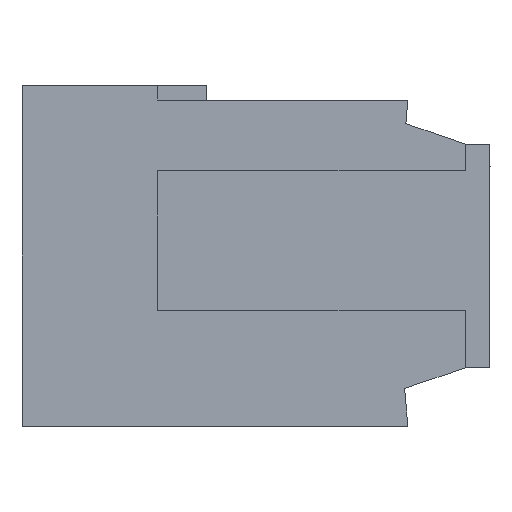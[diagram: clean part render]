
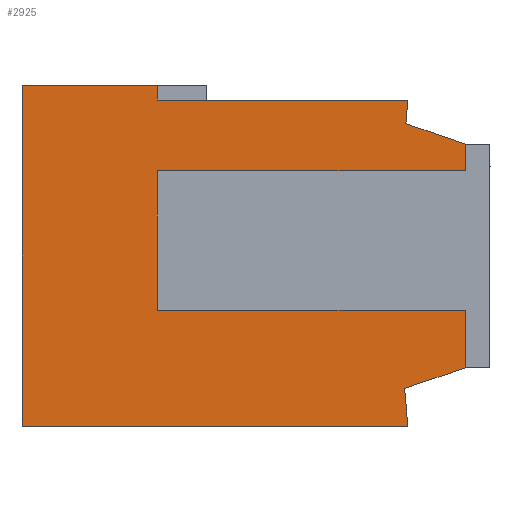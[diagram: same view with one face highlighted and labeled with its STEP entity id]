
A CAD part, left-side view. The second image highlights one B-rep face of the part: STEP entity #2925.
In plain terms, the highlighted planar face has unit normal (-1, 0, 0).
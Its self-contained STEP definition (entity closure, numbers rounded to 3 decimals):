
#2839=AXIS2_PLACEMENT_3D('Plane Axis2P3D',#2836,#2837,#2838) ;
#1079=CARTESIAN_POINT('Vertex',(-11.4,22.8,-8.3)) ;
#1082=CARTESIAN_POINT('Line Origine',(-11.4,22.8,0.)) ;
#1086=CARTESIAN_POINT('Vertex',(-11.4,22.8,8.3)) ;
#1673=CARTESIAN_POINT('Line Origine',(-11.4,19.5,8.3)) ;
#1677=CARTESIAN_POINT('Vertex',(-11.4,16.2,8.3)) ;
#1692=CARTESIAN_POINT('Line Origine',(-11.4,16.2,7.95)) ;
#1696=CARTESIAN_POINT('Vertex',(-11.4,16.2,7.6)) ;
#2791=CARTESIAN_POINT('Vertex',(-11.4,4.,-8.3)) ;
#2794=CARTESIAN_POINT('Line Origine',(-11.4,13.4,-8.3)) ;
#2836=CARTESIAN_POINT('Axis2P3D Location',(-11.4,23.232,8.632)) ;
#2841=CARTESIAN_POINT('Line Origine',(-11.4,16.2,0.75)) ;
#2845=CARTESIAN_POINT('Vertex',(-11.4,16.2,-2.65)) ;
#2847=CARTESIAN_POINT('Vertex',(-11.4,16.2,4.15)) ;
#2850=CARTESIAN_POINT('Line Origine',(-11.4,8.7,4.15)) ;
#2854=CARTESIAN_POINT('Vertex',(-11.4,1.2,4.15)) ;
#2857=CARTESIAN_POINT('Line Origine',(-11.4,1.2,4.8)) ;
#2861=CARTESIAN_POINT('Vertex',(-11.4,1.2,5.45)) ;
#2864=CARTESIAN_POINT('Line Origine',(-11.4,2.65,5.95)) ;
#2868=CARTESIAN_POINT('Vertex',(-11.4,4.101,6.45)) ;
#2871=CARTESIAN_POINT('Line Origine',(-11.4,4.05,7.025)) ;
#2875=CARTESIAN_POINT('Vertex',(-11.4,4.,7.6)) ;
#2878=CARTESIAN_POINT('Line Origine',(-11.4,10.1,7.6)) ;
#2883=CARTESIAN_POINT('Line Origine',(-11.4,4.081,-7.375)) ;
#2887=CARTESIAN_POINT('Vertex',(-11.4,4.162,-6.45)) ;
#2890=CARTESIAN_POINT('Line Origine',(-11.4,2.681,-5.95)) ;
#2894=CARTESIAN_POINT('Vertex',(-11.4,1.2,-5.45)) ;
#2897=CARTESIAN_POINT('Line Origine',(-11.4,1.2,-4.05)) ;
#2901=CARTESIAN_POINT('Vertex',(-11.4,1.2,-2.65)) ;
#2904=CARTESIAN_POINT('Line Origine',(-11.4,8.7,-2.65)) ;
#1083=DIRECTION('Vector Direction',(0.,0.,-1.)) ;
#1674=DIRECTION('Vector Direction',(0.,1.,0.)) ;
#1693=DIRECTION('Vector Direction',(0.,0.,1.)) ;
#2795=DIRECTION('Vector Direction',(0.,-1.,0.)) ;
#2837=DIRECTION('Axis2P3D Direction',(-1.,-0.,-0.)) ;
#2838=DIRECTION('Axis2P3D XDirection',(0.,0.,-1.)) ;
#2842=DIRECTION('Vector Direction',(0.,0.,1.)) ;
#2851=DIRECTION('Vector Direction',(0.,-1.,0.)) ;
#2858=DIRECTION('Vector Direction',(0.,0.,1.)) ;
#2865=DIRECTION('Vector Direction',(0.,0.945,0.326)) ;
#2872=DIRECTION('Vector Direction',(0.,-0.087,0.996)) ;
#2879=DIRECTION('Vector Direction',(0.,1.,0.)) ;
#2884=DIRECTION('Vector Direction',(0.,0.087,0.996)) ;
#2891=DIRECTION('Vector Direction',(0.,-0.947,0.32)) ;
#2898=DIRECTION('Vector Direction',(0.,0.,1.)) ;
#2905=DIRECTION('Vector Direction',(0.,1.,0.)) ;
#1084=VECTOR('Line Direction',#1083,1.) ;
#1675=VECTOR('Line Direction',#1674,1.) ;
#1694=VECTOR('Line Direction',#1693,1.) ;
#2796=VECTOR('Line Direction',#2795,1.) ;
#2843=VECTOR('Line Direction',#2842,1.) ;
#2852=VECTOR('Line Direction',#2851,1.) ;
#2859=VECTOR('Line Direction',#2858,1.) ;
#2866=VECTOR('Line Direction',#2865,1.) ;
#2873=VECTOR('Line Direction',#2872,1.) ;
#2880=VECTOR('Line Direction',#2879,1.) ;
#2885=VECTOR('Line Direction',#2884,1.) ;
#2892=VECTOR('Line Direction',#2891,1.) ;
#2899=VECTOR('Line Direction',#2898,1.) ;
#2906=VECTOR('Line Direction',#2905,1.) ;
#2910=ORIENTED_EDGE('',*,*,#2849,.T.) ;
#2911=ORIENTED_EDGE('',*,*,#2856,.T.) ;
#2912=ORIENTED_EDGE('',*,*,#2863,.T.) ;
#2913=ORIENTED_EDGE('',*,*,#2870,.T.) ;
#2914=ORIENTED_EDGE('',*,*,#2877,.T.) ;
#2915=ORIENTED_EDGE('',*,*,#2882,.T.) ;
#2916=ORIENTED_EDGE('',*,*,#1698,.T.) ;
#2917=ORIENTED_EDGE('',*,*,#1679,.T.) ;
#2918=ORIENTED_EDGE('',*,*,#1088,.T.) ;
#2919=ORIENTED_EDGE('',*,*,#2798,.T.) ;
#2920=ORIENTED_EDGE('',*,*,#2889,.T.) ;
#2921=ORIENTED_EDGE('',*,*,#2896,.T.) ;
#2922=ORIENTED_EDGE('',*,*,#2903,.T.) ;
#2923=ORIENTED_EDGE('',*,*,#2908,.T.) ;
#2925=ADVANCED_FACE('MANIFOLD_SOLID_BREP #33',(#2924),#2840,.T.) ;
#1088=EDGE_CURVE('',#1087,#1080,#1085,.T.) ;
#1679=EDGE_CURVE('',#1678,#1087,#1676,.T.) ;
#1698=EDGE_CURVE('',#1697,#1678,#1695,.T.) ;
#2798=EDGE_CURVE('',#1080,#2792,#2797,.T.) ;
#2849=EDGE_CURVE('',#2846,#2848,#2844,.T.) ;
#2856=EDGE_CURVE('',#2848,#2855,#2853,.T.) ;
#2863=EDGE_CURVE('',#2855,#2862,#2860,.T.) ;
#2870=EDGE_CURVE('',#2862,#2869,#2867,.T.) ;
#2877=EDGE_CURVE('',#2869,#2876,#2874,.T.) ;
#2882=EDGE_CURVE('',#2876,#1697,#2881,.T.) ;
#2889=EDGE_CURVE('',#2792,#2888,#2886,.T.) ;
#2896=EDGE_CURVE('',#2888,#2895,#2893,.T.) ;
#2903=EDGE_CURVE('',#2895,#2902,#2900,.T.) ;
#2908=EDGE_CURVE('',#2902,#2846,#2907,.T.) ;
#2909=EDGE_LOOP('',(#2910,#2911,#2912,#2913,#2914,#2915,#2916,#2917,#2918,#2919,#2920,#2921,#2922,#2923)) ;
#2924=FACE_OUTER_BOUND('',#2909,.T.) ;
#1085=LINE('Line',#1082,#1084) ;
#1676=LINE('Line',#1673,#1675) ;
#1695=LINE('Line',#1692,#1694) ;
#2797=LINE('Line',#2794,#2796) ;
#2844=LINE('Line',#2841,#2843) ;
#2853=LINE('Line',#2850,#2852) ;
#2860=LINE('Line',#2857,#2859) ;
#2867=LINE('Line',#2864,#2866) ;
#2874=LINE('Line',#2871,#2873) ;
#2881=LINE('Line',#2878,#2880) ;
#2886=LINE('Line',#2883,#2885) ;
#2893=LINE('Line',#2890,#2892) ;
#2900=LINE('Line',#2897,#2899) ;
#2907=LINE('Line',#2904,#2906) ;
#2840=PLANE('',#2839) ;
#1080=VERTEX_POINT('',#1079) ;
#1087=VERTEX_POINT('',#1086) ;
#1678=VERTEX_POINT('',#1677) ;
#1697=VERTEX_POINT('',#1696) ;
#2792=VERTEX_POINT('',#2791) ;
#2846=VERTEX_POINT('',#2845) ;
#2848=VERTEX_POINT('',#2847) ;
#2855=VERTEX_POINT('',#2854) ;
#2862=VERTEX_POINT('',#2861) ;
#2869=VERTEX_POINT('',#2868) ;
#2876=VERTEX_POINT('',#2875) ;
#2888=VERTEX_POINT('',#2887) ;
#2895=VERTEX_POINT('',#2894) ;
#2902=VERTEX_POINT('',#2901) ;
